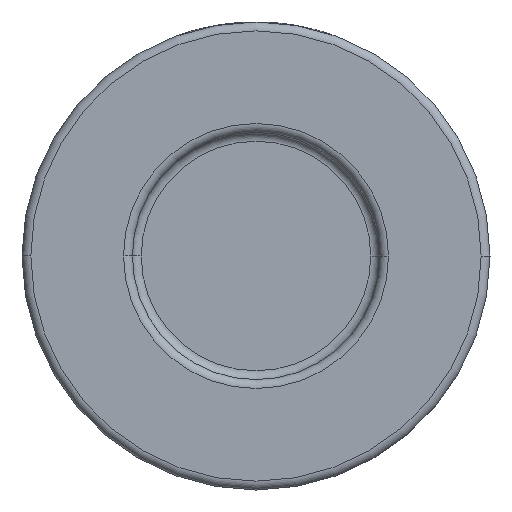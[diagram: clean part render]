
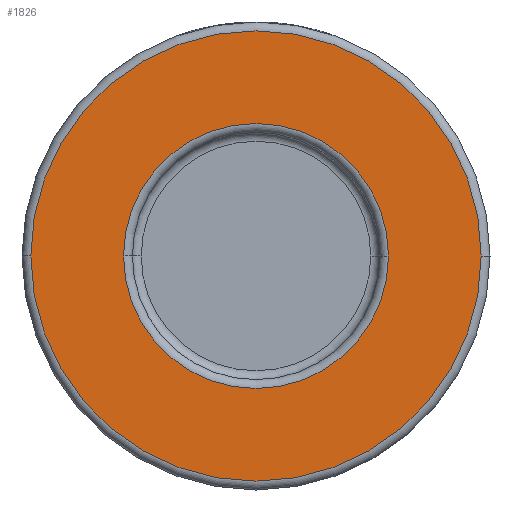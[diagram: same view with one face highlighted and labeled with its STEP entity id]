
A CAD part, front view. The second image highlights one B-rep face of the part: STEP entity #1826.
In plain terms, the highlighted planar face has unit normal (0, -1, 0).
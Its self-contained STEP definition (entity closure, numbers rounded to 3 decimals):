
#6 = VERTEX_POINT ( 'NONE', #2515 ) ;
#244 = CARTESIAN_POINT ( 'NONE',  ( 0., -16., 0. ) ) ;
#285 = CARTESIAN_POINT ( 'NONE',  ( 0., -16., 0. ) ) ;
#326 = DIRECTION ( 'NONE',  ( 0., -1., 0. ) ) ;
#342 = CARTESIAN_POINT ( 'NONE',  ( 0., -16., 0. ) ) ;
#475 = AXIS2_PLACEMENT_3D ( 'NONE', #285, #3358, #2574 ) ;
#484 = EDGE_LOOP ( 'NONE', ( #2450, #639 ) ) ;
#595 = DIRECTION ( 'NONE',  ( 0., -1., 0. ) ) ;
#618 = CIRCLE ( 'NONE', #4256, 15. ) ;
#639 = ORIENTED_EDGE ( 'NONE', *, *, #1243, .T. ) ;
#864 = VERTEX_POINT ( 'NONE', #1895 ) ;
#1069 = AXIS2_PLACEMENT_3D ( 'NONE', #3021, #326, #3084 ) ;
#1216 = CARTESIAN_POINT ( 'NONE',  ( -15., -16., 0. ) ) ;
#1243 = EDGE_CURVE ( 'NONE', #2939, #2593, #618, .T. ) ;
#1272 = CARTESIAN_POINT ( 'NONE',  ( 26.5, -16., 0. ) ) ;
#1518 = DIRECTION ( 'NONE',  ( 0., 1., 0. ) ) ;
#1584 = PLANE ( 'NONE',  #4339 ) ;
#1826 = ADVANCED_FACE ( 'NONE', ( #4328, #2971 ), #1584, .T. ) ;
#1839 = EDGE_CURVE ( 'NONE', #864, #6, #2417, .T. ) ;
#1853 = ORIENTED_EDGE ( 'NONE', *, *, #1839, .T. ) ;
#1895 = CARTESIAN_POINT ( 'NONE',  ( -25.5, -16., 0. ) ) ;
#1946 = EDGE_CURVE ( 'NONE', #6, #864, #2422, .T. ) ;
#2148 = ORIENTED_EDGE ( 'NONE', *, *, #1946, .T. ) ;
#2417 = CIRCLE ( 'NONE', #475, 25.5 ) ;
#2422 = CIRCLE ( 'NONE', #1069, 25.5 ) ;
#2450 = ORIENTED_EDGE ( 'NONE', *, *, #3556, .T. ) ;
#2492 = CIRCLE ( 'NONE', #3277, 15. ) ;
#2515 = CARTESIAN_POINT ( 'NONE',  ( 25.5, -16., 0. ) ) ;
#2574 = DIRECTION ( 'NONE',  ( 1., 0., 0. ) ) ;
#2593 = VERTEX_POINT ( 'NONE', #3023 ) ;
#2927 = DIRECTION ( 'NONE',  ( 1., 0., 0. ) ) ;
#2939 = VERTEX_POINT ( 'NONE', #1216 ) ;
#2971 = FACE_OUTER_BOUND ( 'NONE', #3938, .T. ) ;
#3021 = CARTESIAN_POINT ( 'NONE',  ( 0., -16., 0. ) ) ;
#3023 = CARTESIAN_POINT ( 'NONE',  ( 15., -16., 0. ) ) ;
#3084 = DIRECTION ( 'NONE',  ( 1., 0., 0. ) ) ;
#3277 = AXIS2_PLACEMENT_3D ( 'NONE', #342, #3773, #4105 ) ;
#3358 = DIRECTION ( 'NONE',  ( 0., -1., 0. ) ) ;
#3556 = EDGE_CURVE ( 'NONE', #2593, #2939, #2492, .T. ) ;
#3773 = DIRECTION ( 'NONE',  ( 0., 1., 0. ) ) ;
#3938 = EDGE_LOOP ( 'NONE', ( #2148, #1853 ) ) ;
#4105 = DIRECTION ( 'NONE',  ( 1., 0., 0. ) ) ;
#4256 = AXIS2_PLACEMENT_3D ( 'NONE', #244, #1518, #4295 ) ;
#4295 = DIRECTION ( 'NONE',  ( 1., 0., 0. ) ) ;
#4328 = FACE_BOUND ( 'NONE', #484, .T. ) ;
#4339 = AXIS2_PLACEMENT_3D ( 'NONE', #1272, #595, #2927 ) ;
